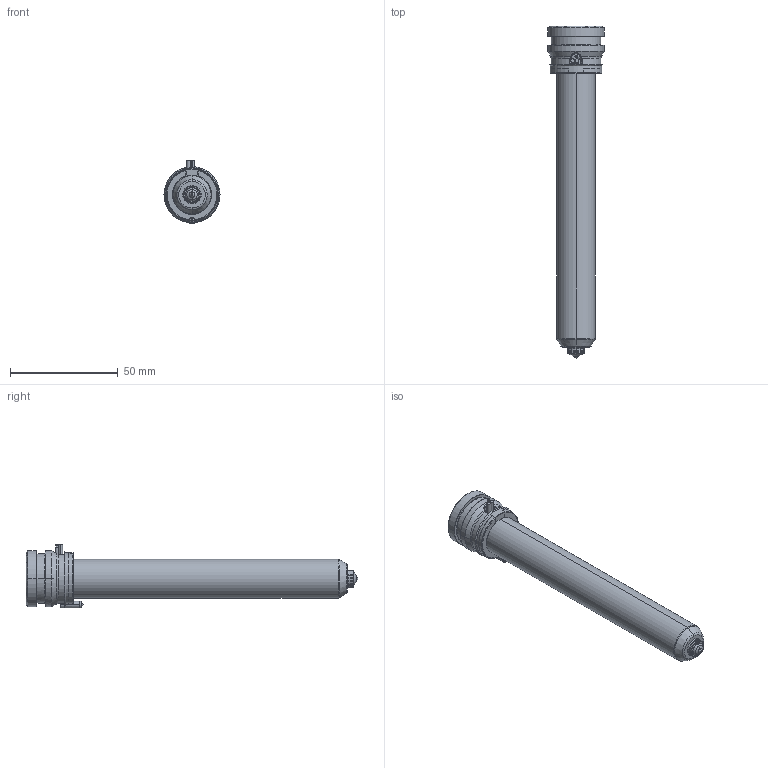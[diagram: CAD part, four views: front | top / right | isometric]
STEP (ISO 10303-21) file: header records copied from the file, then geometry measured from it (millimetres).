
FILE_DESCRIPTION((''),'2;1');
FILE_NAME('TH18136-A-1-PK-JG','2023-12-14T',('umhib'),('Thermoplay S.p.A.'),'PRO/ENGINEER BY PARAMETRIC TECHNOLOGY CORPORATION, 2017170','PRO/ENGINEER BY PARAMETRIC TECHNOLOGY CORPORATION, 2017170','');
FILE_SCHEMA(('CONFIG_CONTROL_DESIGN'));
Length unit declared in the file: millimetre
Products named in the file (1): TH18136-A-1-PK-JG
Bounding box: 26 x 154 x 29.5 mm (x, y, z)
Volume: 31307.9 mm3; surface area: 22741.9 mm2
Topology: 1 solids, 2 shells, 396 faces, 1032 edges, 641 vertices
Faces by surface type: cylinder 151, plane 85, cone 66, torus 56, bspline 24, sphere 12, extrusion 2
Entity records: 18004 total; most frequent: CARTESIAN_POINT 6095, ORIENTED_EDGE 2040, DIRECTION 2021, EDGE_CURVE 1022, AXIS2_PLACEMENT_3D 811, VERTEX_POINT 641, CIRCLE 440, EDGE_LOOP 416
